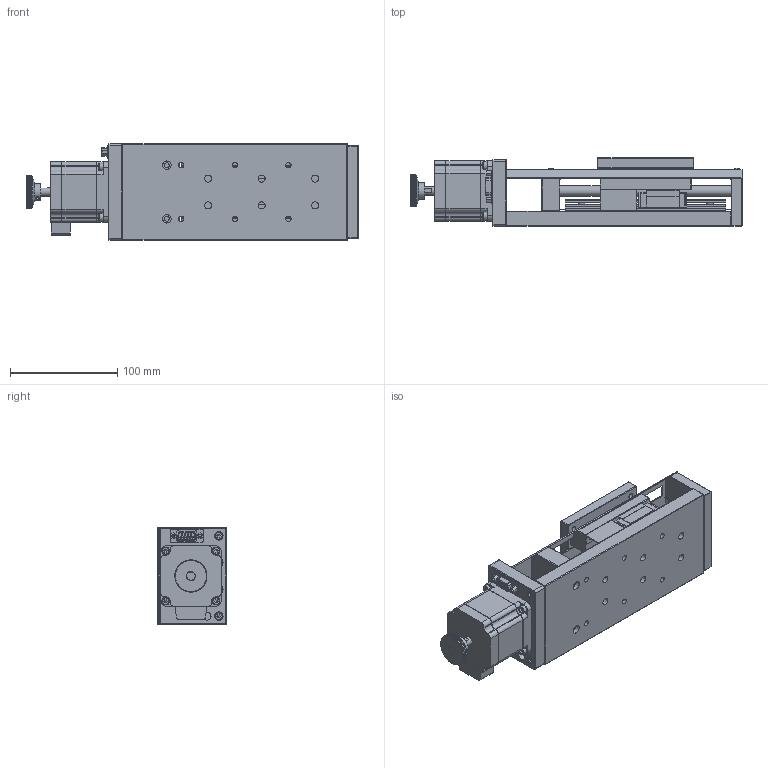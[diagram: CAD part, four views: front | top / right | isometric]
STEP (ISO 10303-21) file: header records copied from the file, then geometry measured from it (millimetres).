
FILE_DESCRIPTION (( 'STEP AP203' ), '1' );
FILE_NAME ('MTP90-50.step', '2017-01-10T10:33:10', ( '¦K¬P' ), ( '' ), 'SwSTEP 2.0', 'SolidWorks 2012', '' );
FILE_SCHEMA (( 'CONFIG_CONTROL_DESIGN' ));
Length unit declared in the file: millimetre
Products named in the file (1): MTP90-50
Bounding box: 310 x 64 x 90 mm (x, y, z)
Surface area: 194745.6 mm2 (no closed solid volume)
Topology: 0 solids, 91 shells, 1086 faces, 3618 edges, 2517 vertices
Faces by surface type: plane 613, cylinder 361, cone 57, sphere 32, torus 19, bspline 4
Full cylindrical faces by diameter (mm): 1.04 x9, 1.14 x9, 1.64 x9, 2.5 x2, 3 x4, 3.3 x6, 4 x4, 5 x19, 5.7 x5, 6 x4, 6.6 x6, 7 x10, 7.5 x1, 7.6 x2, 8 x15, 10 x1, 10.6 x1, 11 x4, 14 x1, 15.8 x1, 38.1 x1
Entity records: 38405 total; most frequent: CARTESIAN_POINT 8113, DIRECTION 6246, ORIENTED_EDGE 5463, EDGE_CURVE 3357, VERTEX_POINT 2449, AXIS2_PLACEMENT_3D 2126, VECTOR 1994, LINE 1994
